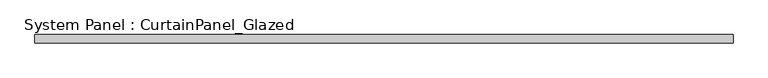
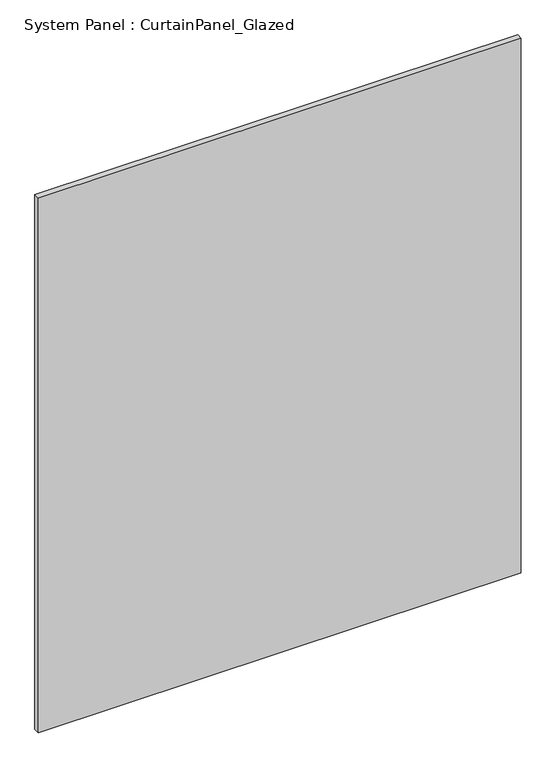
"""IFC4 building model written with IfcOpenShell, lengths in millimetres: plate geometry, System Panel : CurtainPanel_Glazed."""

import ifcopenshell
import ifcopenshell.guid

model = None  # the IFC model being written
_history = None  # IfcOwnerHistory: only IFC2X3 demands one
_inside = {}  # id of a spatial element -> (the spatial element, [elements in it])
_under = {}  # id of a project, library or spatial element -> (it, [spatial elements below it])
_declared = {}  # id of a project -> (the project, [libraries it declares])
_typed = {}  # id of a type object -> (the type object, [elements of that type])
_made_of = {}  # id of a material, layer set ... -> (it, [elements and type objects made of it])


def new_model(schema):
    """Start an empty IFC model of exactly this schema.

    Asked for "IFC4X3", IfcOpenShell would pick the latest addendum, in which some entities
    have other attributes; the version numbers below select the first issue.
    IFC2X3 requires an IfcOwnerHistory on every rooted entity: one is made here for all.
    """
    global model, _history
    if schema == "IFC4X3":
        model = ifcopenshell.file(schema_version=(4, 3, 0, 0))
    else:
        model = ifcopenshell.file(schema=schema)
    _inside.clear()
    _under.clear()
    _declared.clear()
    _typed.clear()
    _made_of.clear()
    _history = None
    if model.schema == "IFC2X3":
        org = make("IfcOrganization", Name="unknown")
        user = make(
            "IfcPersonAndOrganization",
            ThePerson=make("IfcPerson", FamilyName="unknown"),
            TheOrganization=org,
        )
        app = make(
            "IfcApplication",
            ApplicationDeveloper=org,
            Version="unknown",
            ApplicationFullName="unknown",
            ApplicationIdentifier="unknown",
        )
        _history = make(
            "IfcOwnerHistory",
            OwningUser=user,
            OwningApplication=app,
            ChangeAction="ADDED",
            CreationDate=0,
        )
    return model


def make(cls, **values):
    """One entity of the class cls with the attributes given. An attribute that is None is left unset."""
    return model.create_entity(
        cls, **{name: value for name, value in values.items() if value is not None}
    )


def rooted(cls, **values):
    """An entity with a GlobalId (a new one), such as an element, a storey or a relation."""
    return make(cls, GlobalId=ifcopenshell.guid.new(), OwnerHistory=_history, **values)


def si_unit(unit_type, name, prefix=None):
    """IfcSIUnit, for example si_unit("LENGTHUNIT", "METRE", prefix="MILLI")."""
    return make("IfcSIUnit", UnitType=unit_type, Prefix=prefix, Name=name)


def assignment(units):
    """IfcUnitAssignment: the units of a project."""
    return None if units is None else make("IfcUnitAssignment", Units=units)


def point(xyz):
    """IfcCartesianPoint."""
    return None if xyz is None else make("IfcCartesianPoint", Coordinates=xyz)


def direction(xyz):
    """IfcDirection."""
    return None if xyz is None else make("IfcDirection", DirectionRatios=xyz)


def frame(location, z_axis=None, x_axis=None):
    """IfcAxis2Placement3D, a coordinate frame: its origin and axes. An axis left out is left unset."""
    return make(
        "IfcAxis2Placement3D",
        Location=point(location),
        Axis=direction(z_axis),
        RefDirection=direction(x_axis),
    )


def origin():
    """The frame at (0, 0, 0) with its axes left unset."""
    return frame((0.0, 0.0, 0.0))


def origin_with_axes():
    """The frame at (0, 0, 0) with the z axis (0, 0, 1) and the x axis (1, 0, 0) written out."""
    return frame((0.0, 0.0, 0.0), z_axis=(0.0, 0.0, 1.0), x_axis=(1.0, 0.0, 0.0))


def place(relative_to, where):
    """IfcLocalPlacement: puts the frame where relative to a parent placement (None: the world)."""
    return make(
        "IfcLocalPlacement", PlacementRelTo=relative_to, RelativePlacement=where
    )


def context(
    kind, dimensions, precision=None, world=None, true_north=None, identifier=None
):
    """IfcGeometricRepresentationContext, for example the 3D "Model" context."""
    return make(
        "IfcGeometricRepresentationContext",
        ContextIdentifier=identifier,
        ContextType=kind,
        CoordinateSpaceDimension=dimensions,
        Precision=precision,
        WorldCoordinateSystem=world,
        TrueNorth=true_north,
    )


def project(units=None, contexts=None):
    """IfcProject with its units and contexts."""
    return rooted(
        "IfcProject",
        Name="project",
        RepresentationContexts=contexts,
        UnitsInContext=assignment(units),
    )


def spatial(cls, under=None, at=None, **own):
    """A site, building, storey or space (cls), placed at a placement, below another one or the project."""
    s = rooted(cls, ObjectPlacement=at, **own)
    if under is not None:
        _under.setdefault(under.id(), (under, []))[1].append(s)
    return s


def polyline(points):
    """IfcPolyline through the points."""
    return make("IfcPolyline", Points=[point(p) for p in points])


def outline(outer, holes=None, kind="AREA"):
    """IfcArbitraryClosedProfileDef: a profile drawn as a closed curve; with holes, ...WithVoids."""
    if holes is None:
        return make("IfcArbitraryClosedProfileDef", ProfileType=kind, OuterCurve=outer)
    return make(
        "IfcArbitraryProfileDefWithVoids",
        ProfileType=kind,
        OuterCurve=outer,
        InnerCurves=holes,
    )


def extrude(swept, where, along, depth):
    """IfcExtrudedAreaSolid: the profile swept, set in the frame where, extruded along a direction by depth."""
    return make(
        "IfcExtrudedAreaSolid",
        SweptArea=swept,
        Position=where,
        ExtrudedDirection=direction(along),
        Depth=depth,
    )


def shape(context_of_items, identifier, shape_type, items):
    """IfcShapeRepresentation: the items that make up one representation, for example the "Body"."""
    return make(
        "IfcShapeRepresentation",
        ContextOfItems=context_of_items,
        RepresentationIdentifier=identifier,
        RepresentationType=shape_type,
        Items=items,
    )


def source(mapping_origin, context_of_items, identifier, shape_type, items):
    """IfcRepresentationMap: a shape defined once, which mapped items show again and again."""
    return make(
        "IfcRepresentationMap",
        MappingOrigin=mapping_origin,
        MappedRepresentation=shape(context_of_items, identifier, shape_type, items),
    )


def transform(
    local_origin,
    x_axis=None,
    y_axis=None,
    z_axis=None,
    scale=None,
    scale2=None,
    scale3=None,
    uniform=True,
):
    """IfcCartesianTransformationOperator3D, or its non-uniform kind. x_axis, y_axis, z_axis: its Axis1, 2, 3."""
    if uniform:
        return make(
            "IfcCartesianTransformationOperator3D",
            Axis1=direction(x_axis),
            Axis2=direction(y_axis),
            LocalOrigin=point(local_origin),
            Scale=scale,
            Axis3=direction(z_axis),
        )
    return make(
        "IfcCartesianTransformationOperator3DnonUniform",
        Axis1=direction(x_axis),
        Axis2=direction(y_axis),
        LocalOrigin=point(local_origin),
        Scale=scale,
        Axis3=direction(z_axis),
        Scale2=scale2,
        Scale3=scale3,
    )


def mapped(mapping_source, mapping_target):
    """IfcMappedItem: shows the shape of a source again, moved by a transform."""
    return make(
        "IfcMappedItem", MappingSource=mapping_source, MappingTarget=mapping_target
    )


def made_of(thing, what):
    """Note that an element or type object is made of a material, layer set ...; save() writes the relation."""
    if what is not None:
        _made_of.setdefault(what.id(), (what, []))[1].append(thing)
    return thing


def element(
    cls,
    number,
    at=None,
    inside=None,
    cuts=None,
    type_object=None,
    material=None,
    context=None,
    identifier="Body",
    shape_type=None,
    held_by="IfcProductDefinitionShape",
    body=None,
    shapes=None,
    **own,
):
    """One element of the class cls, such as IfcWall. Its Tag is "e" and its number.

    at: its placement. inside: the storey or other place that contains it. cuts: it is an
    opening in that element (IfcRelVoidsElement). A single representation is given by context,
    identifier, shape_type and body (its items); several are given by shapes. held_by: the class
    of the entity that holds the representations. save() writes the other relations.
    """
    e = rooted(cls, Tag="e%d" % number, ObjectPlacement=at, **own)
    if body is not None:
        shapes = [shape(context, identifier, shape_type, body)]
    if shapes is not None:
        e.Representation = make(held_by, Representations=shapes)
    if inside is not None:
        _inside.setdefault(inside.id(), (inside, []))[1].append(e)
    if cuts is not None:
        rooted(
            "IfcRelVoidsElement", RelatingBuildingElement=cuts, RelatedOpeningElement=e
        )
    if type_object is not None:
        _typed.setdefault(type_object.id(), (type_object, []))[1].append(e)
    return made_of(e, material)


def aggregate(whole, parts):
    """IfcRelAggregates: a whole, such as a stair, and the parts it consists of."""
    return rooted("IfcRelAggregates", RelatingObject=whole, RelatedObjects=parts)


def save(model, path):
    """Write the relations noted so far, then the file.

    IfcRelAggregates (storeys below a building ...), IfcRelContainedInSpatialStructure (elements
    in a storey), IfcRelDefinesByType, IfcRelAssociatesMaterial and IfcRelDeclares: one each for
    every whole, place, type object, material and project.
    """
    for whole, parts in _under.values():
        aggregate(whole, parts)
    for where, things in _inside.values():
        rooted(
            "IfcRelContainedInSpatialStructure",
            RelatedElements=things,
            RelatingStructure=where,
        )
    for kind, things in _typed.values():
        rooted("IfcRelDefinesByType", RelatedObjects=things, RelatingType=kind)
    for what, things in _made_of.values():
        rooted("IfcRelAssociatesMaterial", RelatedObjects=things, RelatingMaterial=what)
    for by, libraries in _declared.values():
        rooted("IfcRelDeclares", RelatingContext=by, RelatedDefinitions=libraries)
    model.write(path)


def system_panel_curtainpanel_glazed_9120b6e5(model_context):
    return source(origin(), model_context, "Body", "SweptSolid", [
        extrude(outline(polyline([(1041.0000001, -12.5), (-1041.0000001, -12.5), (-1041.0000001, 12.5), (1041.0000001, 12.5), (1041.0000001, -12.5)])), origin_with_axes(), (0.0, 0.0, 1.0), 2436.7),
    ])


if __name__ == "__main__":
    model = new_model("IFC4")
    model_context = context("Model", 3, world=origin())
    ifc_project = project(units=[si_unit("LENGTHUNIT", "METRE", prefix="MILLI")], contexts=[model_context])
    site = spatial("IfcSite", under=ifc_project)
    building = spatial("IfcBuilding", under=site)
    placement = place(None, origin())
    system_panel_curtainpanel_glazed_shape = system_panel_curtainpanel_glazed_9120b6e5(model_context)
    element("IfcPlate", 1, ObjectType="System Panel : CurtainPanel_Glazed", at=placement, inside=building, context=model_context, shape_type="MappedRepresentation", body=[
        mapped(system_panel_curtainpanel_glazed_shape, transform((0.0, 0.0, 0.0), x_axis=(1.0, 0.0, 0.0), y_axis=(0.0, 1.0, 0.0), z_axis=(0.0, 0.0, 1.0))),
    ])
    save(model, "model.ifc")
